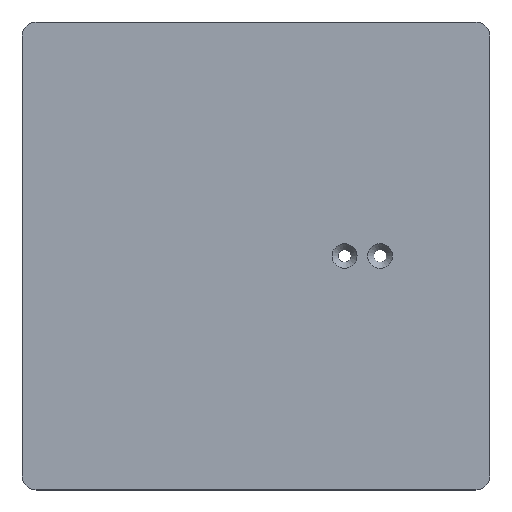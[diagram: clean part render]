
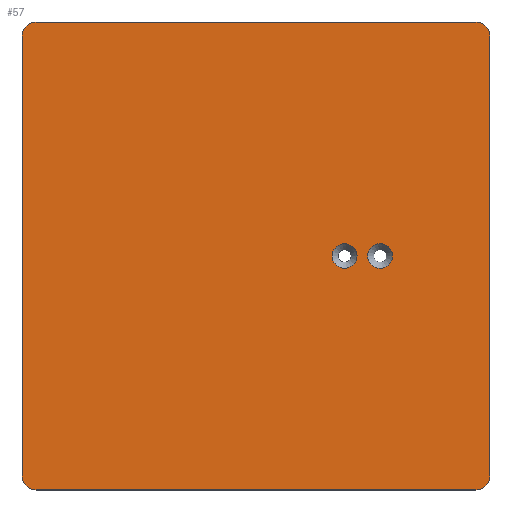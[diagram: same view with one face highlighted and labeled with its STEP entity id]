
A CAD part, top view. The second image highlights one B-rep face of the part: STEP entity #57.
In plain terms, the highlighted planar face has unit normal (0, 0, 1).
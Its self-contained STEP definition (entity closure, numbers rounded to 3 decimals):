
#21 = EDGE_CURVE('',#22,#24,#26,.T.);
#22 = VERTEX_POINT('',#23);
#23 = CARTESIAN_POINT('',(-66.,30.,41.5));
#24 = VERTEX_POINT('',#25);
#25 = CARTESIAN_POINT('',(-66.,154.,41.5));
#26 = LINE('',#27,#28);
#27 = CARTESIAN_POINT('',(-66.,26.,41.5));
#28 = VECTOR('',#29,1.);
#29 = DIRECTION('',(0.,1.,0.));
#57 = ADVANCED_FACE('',(#58,#119,#130),#141,.T.);
#58 = FACE_BOUND('',#59,.T.);
#59 = EDGE_LOOP('',(#60,#61,#70,#78,#87,#95,#104,#112));
#60 = ORIENTED_EDGE('',*,*,#21,.F.);
#61 = ORIENTED_EDGE('',*,*,#62,.T.);
#62 = EDGE_CURVE('',#22,#63,#65,.T.);
#63 = VERTEX_POINT('',#64);
#64 = CARTESIAN_POINT('',(-62.,26.,41.5));
#65 = CIRCLE('',#66,4.);
#66 = AXIS2_PLACEMENT_3D('',#67,#68,#69);
#67 = CARTESIAN_POINT('',(-62.,30.,41.5));
#68 = DIRECTION('',(-0.,0.,1.));
#69 = DIRECTION('',(0.,-1.,0.));
#70 = ORIENTED_EDGE('',*,*,#71,.T.);
#71 = EDGE_CURVE('',#63,#72,#74,.T.);
#72 = VERTEX_POINT('',#73);
#73 = CARTESIAN_POINT('',(62.,26.,41.5));
#74 = LINE('',#75,#76);
#75 = CARTESIAN_POINT('',(-66.,26.,41.5));
#76 = VECTOR('',#77,1.);
#77 = DIRECTION('',(1.,0.,0.));
#78 = ORIENTED_EDGE('',*,*,#79,.F.);
#79 = EDGE_CURVE('',#80,#72,#82,.T.);
#80 = VERTEX_POINT('',#81);
#81 = CARTESIAN_POINT('',(66.,30.,41.5));
#82 = CIRCLE('',#83,4.);
#83 = AXIS2_PLACEMENT_3D('',#84,#85,#86);
#84 = CARTESIAN_POINT('',(62.,30.,41.5));
#85 = DIRECTION('',(-0.,-0.,-1.));
#86 = DIRECTION('',(0.,-1.,0.));
#87 = ORIENTED_EDGE('',*,*,#88,.T.);
#88 = EDGE_CURVE('',#80,#89,#91,.T.);
#89 = VERTEX_POINT('',#90);
#90 = CARTESIAN_POINT('',(66.,154.,41.5));
#91 = LINE('',#92,#93);
#92 = CARTESIAN_POINT('',(66.,26.,41.5));
#93 = VECTOR('',#94,1.);
#94 = DIRECTION('',(0.,1.,0.));
#95 = ORIENTED_EDGE('',*,*,#96,.T.);
#96 = EDGE_CURVE('',#89,#97,#99,.T.);
#97 = VERTEX_POINT('',#98);
#98 = CARTESIAN_POINT('',(62.,158.,41.5));
#99 = CIRCLE('',#100,4.);
#100 = AXIS2_PLACEMENT_3D('',#101,#102,#103);
#101 = CARTESIAN_POINT('',(62.,154.,41.5));
#102 = DIRECTION('',(-0.,0.,1.));
#103 = DIRECTION('',(0.,-1.,0.));
#104 = ORIENTED_EDGE('',*,*,#105,.F.);
#105 = EDGE_CURVE('',#106,#97,#108,.T.);
#106 = VERTEX_POINT('',#107);
#107 = CARTESIAN_POINT('',(-62.,158.,41.5));
#108 = LINE('',#109,#110);
#109 = CARTESIAN_POINT('',(-66.,158.,41.5));
#110 = VECTOR('',#111,1.);
#111 = DIRECTION('',(1.,0.,0.));
#112 = ORIENTED_EDGE('',*,*,#113,.F.);
#113 = EDGE_CURVE('',#24,#106,#114,.T.);
#114 = CIRCLE('',#115,4.);
#115 = AXIS2_PLACEMENT_3D('',#116,#117,#118);
#116 = CARTESIAN_POINT('',(-62.,154.,41.5));
#117 = DIRECTION('',(-0.,-0.,-1.));
#118 = DIRECTION('',(0.,-1.,0.));
#119 = FACE_BOUND('',#120,.T.);
#120 = EDGE_LOOP('',(#121));
#121 = ORIENTED_EDGE('',*,*,#122,.F.);
#122 = EDGE_CURVE('',#123,#123,#125,.T.);
#123 = VERTEX_POINT('',#124);
#124 = CARTESIAN_POINT('',(28.5,92.,41.5));
#125 = CIRCLE('',#126,3.5);
#126 = AXIS2_PLACEMENT_3D('',#127,#128,#129);
#127 = CARTESIAN_POINT('',(25.,92.,41.5));
#128 = DIRECTION('',(0.,0.,1.));
#129 = DIRECTION('',(1.,0.,0.));
#130 = FACE_BOUND('',#131,.T.);
#131 = EDGE_LOOP('',(#132));
#132 = ORIENTED_EDGE('',*,*,#133,.F.);
#133 = EDGE_CURVE('',#134,#134,#136,.T.);
#134 = VERTEX_POINT('',#135);
#135 = CARTESIAN_POINT('',(38.5,92.,41.5));
#136 = CIRCLE('',#137,3.5);
#137 = AXIS2_PLACEMENT_3D('',#138,#139,#140);
#138 = CARTESIAN_POINT('',(35.,92.,41.5));
#139 = DIRECTION('',(0.,0.,1.));
#140 = DIRECTION('',(1.,0.,0.));
#141 = PLANE('',#142);
#142 = AXIS2_PLACEMENT_3D('',#143,#144,#145);
#143 = CARTESIAN_POINT('',(-66.,26.,41.5));
#144 = DIRECTION('',(0.,0.,1.));
#145 = DIRECTION('',(1.,0.,0.));
